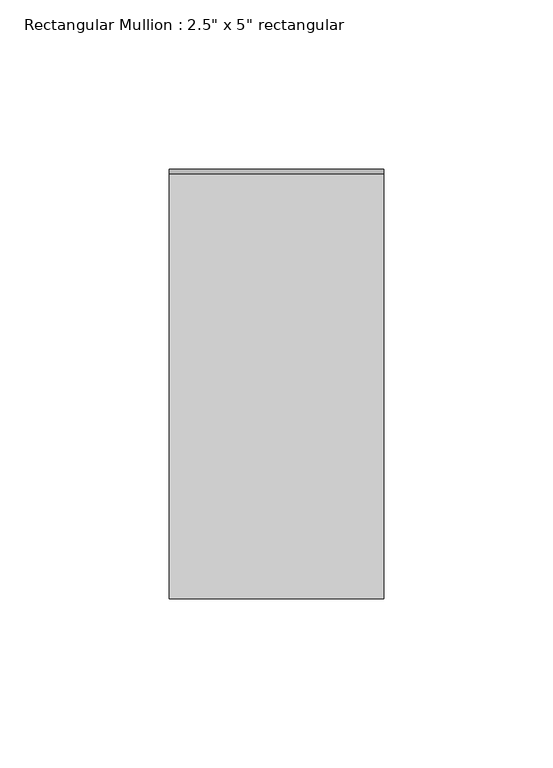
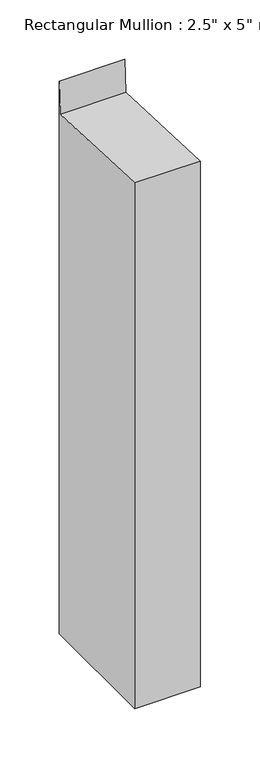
"""IFC4 building model written with IfcOpenShell, lengths in millimetres: member geometry."""

from ifc_helpers import new_model, si_unit, frame, origin, place, context, project, spatial, polyline, outline, extrude, source, transform, mapped, element, save


def member_24c26854(model_context):
    return source(origin(), model_context, "Body", "SweptSolid", [
        extrude(outline(polyline([(-63.5, 2.6913332), (62.0828234, -2.6888667), (63.5, 30.390395), (63.5, -537.627929), (-63.5, -537.627929), (-63.5, 2.6913332)])), frame((-63.5, 0.0, 0.0), z_axis=(1.0, 0.0, 0.0), x_axis=(0.0, 1.0, 0.0)), (0.0, 0.0, 1.0), 63.5),
    ])


if __name__ == "__main__":
    model = new_model("IFC4")
    model_context = context("Model", 3, world=origin())
    ifc_project = project(units=[si_unit("LENGTHUNIT", "METRE", prefix="MILLI")], contexts=[model_context])
    site = spatial("IfcSite", under=ifc_project)
    building = spatial("IfcBuilding", under=site)
    placement = place(None, origin())
    member_shape = member_24c26854(model_context)
    element("IfcMember", 1, ObjectType="Rectangular Mullion : 2.5\" x 5\" rectangular", at=placement, inside=building, context=model_context, shape_type="MappedRepresentation", body=[
        mapped(member_shape, transform((0.0, 0.0, 0.0), x_axis=(1.0, 0.0, 0.0), y_axis=(0.0, 1.0, 0.0), z_axis=(0.0, 0.0, 1.0))),
    ])
    save(model, "model.ifc")
